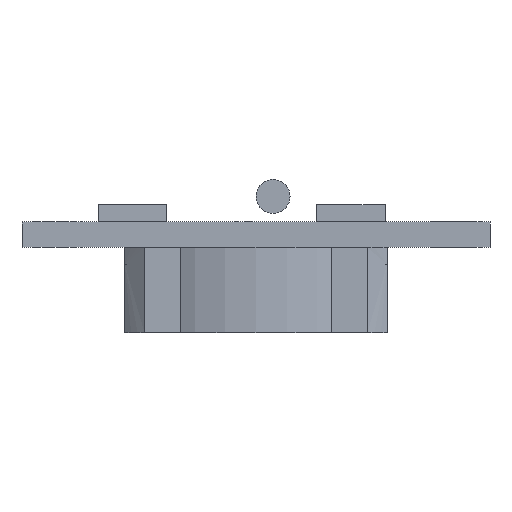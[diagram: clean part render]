
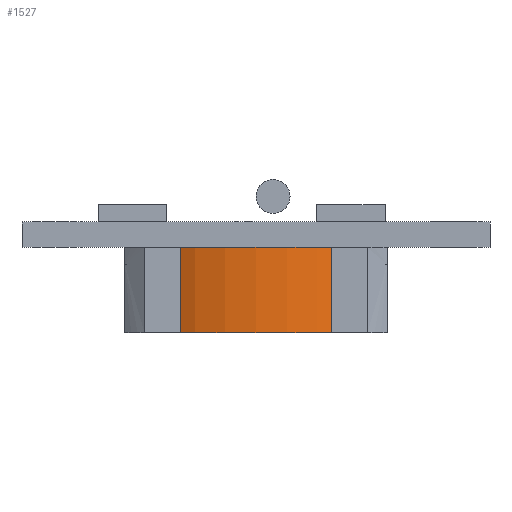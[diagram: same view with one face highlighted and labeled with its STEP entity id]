
A CAD part, front view. The second image highlights one B-rep face of the part: STEP entity #1527.
In plain terms, the highlighted cylindrical face has radius 11 mm (diameter 22 mm), a partial arc.
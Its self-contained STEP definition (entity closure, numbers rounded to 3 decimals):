
#141 = PLANE('',#142);
#142 = AXIS2_PLACEMENT_3D('',#143,#144,#145);
#143 = CARTESIAN_POINT('',(0.,0.,0.));
#144 = DIRECTION('',(-0.,-0.,-1.));
#145 = DIRECTION('',(-1.,0.,0.));
#587 = VERTEX_POINT('',#588);
#588 = CARTESIAN_POINT('',(-5.225,-9.68,0.));
#602 = PLANE('',#603);
#603 = AXIS2_PLACEMENT_3D('',#604,#605,#606);
#604 = CARTESIAN_POINT('',(-5.225,-9.68,0.));
#605 = DIRECTION('',(-1.,-0.,-0.));
#606 = DIRECTION('',(0.,-1.,0.));
#614 = EDGE_CURVE('',#615,#587,#617,.T.);
#615 = VERTEX_POINT('',#616);
#616 = CARTESIAN_POINT('',(5.225,-9.68,0.));
#617 = SURFACE_CURVE('',#618,(#623,#630),.PCURVE_S1.);
#618 = CIRCLE('',#619,11.);
#619 = AXIS2_PLACEMENT_3D('',#620,#621,#622);
#620 = CARTESIAN_POINT('',(0.,0.,0.));
#621 = DIRECTION('',(0.,0.,-1.));
#622 = DIRECTION('',(1.,0.,0.));
#623 = PCURVE('',#141,#624);
#624 = DEFINITIONAL_REPRESENTATION('',(#625),#629);
#625 = CIRCLE('',#626,11.);
#626 = AXIS2_PLACEMENT_2D('',#627,#628);
#627 = CARTESIAN_POINT('',(0.,0.));
#628 = DIRECTION('',(-1.,0.));
#629 = ( GEOMETRIC_REPRESENTATION_CONTEXT(2) 
PARAMETRIC_REPRESENTATION_CONTEXT() REPRESENTATION_CONTEXT('2D SPACE',''
  ) );
#630 = PCURVE('',#631,#636);
#631 = CYLINDRICAL_SURFACE('',#632,11.);
#632 = AXIS2_PLACEMENT_3D('',#633,#634,#635);
#633 = CARTESIAN_POINT('',(0.,0.,0.));
#634 = DIRECTION('',(0.,0.,1.));
#635 = DIRECTION('',(1.,0.,0.));
#636 = DEFINITIONAL_REPRESENTATION('',(#637),#641);
#637 = LINE('',#638,#639);
#638 = CARTESIAN_POINT('',(-0.,0.));
#639 = VECTOR('',#640,1.);
#640 = DIRECTION('',(-1.,0.));
#641 = ( GEOMETRIC_REPRESENTATION_CONTEXT(2) 
PARAMETRIC_REPRESENTATION_CONTEXT() REPRESENTATION_CONTEXT('2D SPACE',''
  ) );
#659 = PLANE('',#660);
#660 = AXIS2_PLACEMENT_3D('',#661,#662,#663);
#661 = CARTESIAN_POINT('',(5.225,-11.059,0.));
#662 = DIRECTION('',(1.,0.,0.));
#663 = DIRECTION('',(-0.,1.,0.));
#1245 = PLANE('',#1246);
#1246 = AXIS2_PLACEMENT_3D('',#1247,#1248,#1249);
#1247 = CARTESIAN_POINT('',(0.,-9.302,-5.));
#1248 = DIRECTION('',(-0.,-0.,-1.));
#1249 = DIRECTION('',(-1.,0.,0.));
#1484 = VERTEX_POINT('',#1485);
#1485 = CARTESIAN_POINT('',(5.225,-9.68,-5.));
#1506 = EDGE_CURVE('',#615,#1484,#1507,.T.);
#1507 = SURFACE_CURVE('',#1508,(#1512,#1519),.PCURVE_S1.);
#1508 = LINE('',#1509,#1510);
#1509 = CARTESIAN_POINT('',(5.225,-9.68,0.));
#1510 = VECTOR('',#1511,1.);
#1511 = DIRECTION('',(0.,0.,-1.));
#1512 = PCURVE('',#659,#1513);
#1513 = DEFINITIONAL_REPRESENTATION('',(#1514),#1518);
#1514 = LINE('',#1515,#1516);
#1515 = CARTESIAN_POINT('',(1.379,0.));
#1516 = VECTOR('',#1517,1.);
#1517 = DIRECTION('',(0.,-1.));
#1518 = ( GEOMETRIC_REPRESENTATION_CONTEXT(2) 
PARAMETRIC_REPRESENTATION_CONTEXT() REPRESENTATION_CONTEXT('2D SPACE',''
  ) );
#1519 = PCURVE('',#631,#1520);
#1520 = DEFINITIONAL_REPRESENTATION('',(#1521),#1525);
#1521 = LINE('',#1522,#1523);
#1522 = CARTESIAN_POINT('',(-1.076,0.));
#1523 = VECTOR('',#1524,1.);
#1524 = DIRECTION('',(-0.,-1.));
#1525 = ( GEOMETRIC_REPRESENTATION_CONTEXT(2) 
PARAMETRIC_REPRESENTATION_CONTEXT() REPRESENTATION_CONTEXT('2D SPACE',''
  ) );
#1527 = ADVANCED_FACE('',(#1528),#631,.T.);
#1528 = FACE_BOUND('',#1529,.F.);
#1529 = EDGE_LOOP('',(#1530,#1531,#1532,#1556));
#1530 = ORIENTED_EDGE('',*,*,#614,.F.);
#1531 = ORIENTED_EDGE('',*,*,#1506,.T.);
#1532 = ORIENTED_EDGE('',*,*,#1533,.T.);
#1533 = EDGE_CURVE('',#1484,#1534,#1536,.T.);
#1534 = VERTEX_POINT('',#1535);
#1535 = CARTESIAN_POINT('',(-5.225,-9.68,-5.));
#1536 = SURFACE_CURVE('',#1537,(#1542,#1549),.PCURVE_S1.);
#1537 = CIRCLE('',#1538,11.);
#1538 = AXIS2_PLACEMENT_3D('',#1539,#1540,#1541);
#1539 = CARTESIAN_POINT('',(0.,0.,-5.));
#1540 = DIRECTION('',(0.,0.,-1.));
#1541 = DIRECTION('',(1.,0.,0.));
#1542 = PCURVE('',#631,#1543);
#1543 = DEFINITIONAL_REPRESENTATION('',(#1544),#1548);
#1544 = LINE('',#1545,#1546);
#1545 = CARTESIAN_POINT('',(-0.,-5.));
#1546 = VECTOR('',#1547,1.);
#1547 = DIRECTION('',(-1.,0.));
#1548 = ( GEOMETRIC_REPRESENTATION_CONTEXT(2) 
PARAMETRIC_REPRESENTATION_CONTEXT() REPRESENTATION_CONTEXT('2D SPACE',''
  ) );
#1549 = PCURVE('',#1245,#1550);
#1550 = DEFINITIONAL_REPRESENTATION('',(#1551),#1555);
#1551 = CIRCLE('',#1552,11.);
#1552 = AXIS2_PLACEMENT_2D('',#1553,#1554);
#1553 = CARTESIAN_POINT('',(0.,9.302));
#1554 = DIRECTION('',(-1.,0.));
#1555 = ( GEOMETRIC_REPRESENTATION_CONTEXT(2) 
PARAMETRIC_REPRESENTATION_CONTEXT() REPRESENTATION_CONTEXT('2D SPACE',''
  ) );
#1556 = ORIENTED_EDGE('',*,*,#1557,.F.);
#1557 = EDGE_CURVE('',#587,#1534,#1558,.T.);
#1558 = SURFACE_CURVE('',#1559,(#1563,#1570),.PCURVE_S1.);
#1559 = LINE('',#1560,#1561);
#1560 = CARTESIAN_POINT('',(-5.225,-9.68,0.));
#1561 = VECTOR('',#1562,1.);
#1562 = DIRECTION('',(0.,0.,-1.));
#1563 = PCURVE('',#631,#1564);
#1564 = DEFINITIONAL_REPRESENTATION('',(#1565),#1569);
#1565 = LINE('',#1566,#1567);
#1566 = CARTESIAN_POINT('',(-2.066,0.));
#1567 = VECTOR('',#1568,1.);
#1568 = DIRECTION('',(-0.,-1.));
#1569 = ( GEOMETRIC_REPRESENTATION_CONTEXT(2) 
PARAMETRIC_REPRESENTATION_CONTEXT() REPRESENTATION_CONTEXT('2D SPACE',''
  ) );
#1570 = PCURVE('',#602,#1571);
#1571 = DEFINITIONAL_REPRESENTATION('',(#1572),#1576);
#1572 = LINE('',#1573,#1574);
#1573 = CARTESIAN_POINT('',(0.,0.));
#1574 = VECTOR('',#1575,1.);
#1575 = DIRECTION('',(0.,-1.));
#1576 = ( GEOMETRIC_REPRESENTATION_CONTEXT(2) 
PARAMETRIC_REPRESENTATION_CONTEXT() REPRESENTATION_CONTEXT('2D SPACE',''
  ) );
